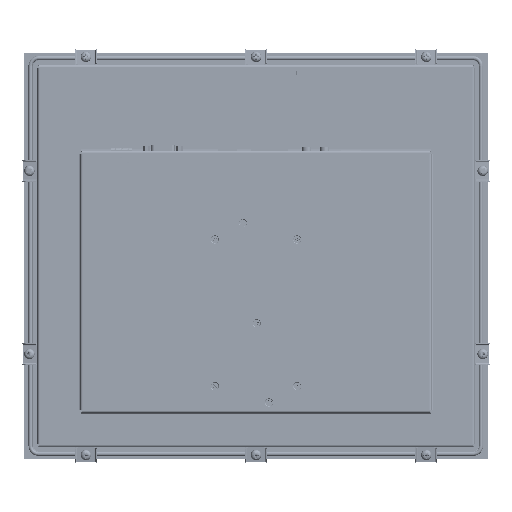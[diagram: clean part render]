
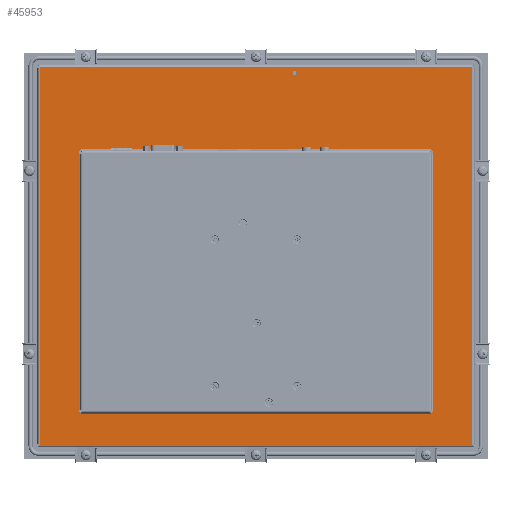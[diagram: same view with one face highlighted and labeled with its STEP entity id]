
A CAD part, front view. The second image highlights one B-rep face of the part: STEP entity #45953.
In plain terms, the highlighted planar face has unit normal (0, -1, 0).
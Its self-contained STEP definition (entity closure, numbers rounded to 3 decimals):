
#477 = DIRECTION ( 'NONE',  ( -0.707, 0., -0.707 ) ) ;
#1372 = EDGE_CURVE ( 'NONE', #93995, #81045, #34686, .T. ) ;
#3233 = EDGE_CURVE ( 'NONE', #61630, #12908, #7537, .T. ) ;
#7537 = LINE ( 'NONE', #129690, #44710 ) ;
#8149 = LINE ( 'NONE', #73299, #163790 ) ;
#8498 = ORIENTED_EDGE ( 'NONE', *, *, #120868, .T. ) ;
#9185 = DIRECTION ( 'NONE',  ( 0., 0., 1. ) ) ;
#10761 = EDGE_CURVE ( 'NONE', #183045, #22855, #186837, .T. ) ;
#11161 = ORIENTED_EDGE ( 'NONE', *, *, #44703, .T. ) ;
#12908 = VERTEX_POINT ( 'NONE', #58382 ) ;
#14512 = CARTESIAN_POINT ( 'NONE',  ( -127.125, -19.35, -122.173 ) ) ;
#16288 = CARTESIAN_POINT ( 'NONE',  ( -135.25, -19.35, -114.048 ) ) ;
#16373 = FACE_BOUND ( 'NONE', #59281, .T. ) ;
#17123 = EDGE_CURVE ( 'NONE', #81045, #61630, #123802, .T. ) ;
#19147 = ORIENTED_EDGE ( 'NONE', *, *, #125655, .T. ) ;
#19688 = ORIENTED_EDGE ( 'NONE', *, *, #130987, .T. ) ;
#20568 = LINE ( 'NONE', #112190, #101091 ) ;
#22855 = VERTEX_POINT ( 'NONE', #83299 ) ;
#22930 = VECTOR ( 'NONE', #96149, 1000. ) ;
#26645 = CARTESIAN_POINT ( 'NONE',  ( 165.2, -19.35, -139.248 ) ) ;
#29116 = CARTESIAN_POINT ( 'NONE',  ( -165.2, -19.35, 149.152 ) ) ;
#29225 = LINE ( 'NONE', #59809, #94743 ) ;
#30191 = CARTESIAN_POINT ( 'NONE',  ( 165.2, -19.35, 4.952 ) ) ;
#30628 = DIRECTION ( 'NONE',  ( 0., 1., 0. ) ) ;
#31212 = VERTEX_POINT ( 'NONE', #78984 ) ;
#33023 = LINE ( 'NONE', #49356, #171268 ) ;
#34686 = LINE ( 'NONE', #176208, #167789 ) ;
#37035 = VERTEX_POINT ( 'NONE', #176604 ) ;
#39861 = VERTEX_POINT ( 'NONE', #29116 ) ;
#44703 = EDGE_CURVE ( 'NONE', #185280, #93995, #111409, .T. ) ;
#44710 = VECTOR ( 'NONE', #191775, 1000. ) ;
#45953 = ADVANCED_FACE ( 'NONE', ( #108937, #16373 ), #46954, .F. ) ;
#46954 = PLANE ( 'NONE',  #52099 ) ;
#47391 = CARTESIAN_POINT ( 'NONE',  ( -135.25, -19.35, 86.452 ) ) ;
#47599 = DIRECTION ( 'NONE',  ( 0., 0., -1. ) ) ;
#49356 = CARTESIAN_POINT ( 'NONE',  ( -107.375, -19.35, 112.327 ) ) ;
#50183 = DIRECTION ( 'NONE',  ( 0., 0., -1. ) ) ;
#52099 = AXIS2_PLACEMENT_3D ( 'NONE', #61229, #30628, #173060 ) ;
#52479 = LINE ( 'NONE', #97221, #153546 ) ;
#54483 = EDGE_CURVE ( 'NONE', #31212, #185280, #52479, .T. ) ;
#56151 = VECTOR ( 'NONE', #92905, 1000. ) ;
#57769 = CARTESIAN_POINT ( 'NONE',  ( 133.25, -19.35, -116.048 ) ) ;
#58382 = CARTESIAN_POINT ( 'NONE',  ( 165.2, -19.35, 149.152 ) ) ;
#59281 = EDGE_LOOP ( 'NONE', ( #77003, #177720, #166932, #143662, #85090, #113199, #19147, #149679 ) ) ;
#59809 = CARTESIAN_POINT ( 'NONE',  ( 0., -19.35, 149.152 ) ) ;
#61044 = VERTEX_POINT ( 'NONE', #72771 ) ;
#61229 = CARTESIAN_POINT ( 'NONE',  ( 0., -19.35, 4.952 ) ) ;
#61340 = DIRECTION ( 'NONE',  ( -0.707, 0., 0.707 ) ) ;
#61630 = VERTEX_POINT ( 'NONE', #75281 ) ;
#61788 = DIRECTION ( 'NONE',  ( 0., 0., 1. ) ) ;
#65611 = DIRECTION ( 'NONE',  ( 0.707, 0., 0.707 ) ) ;
#68330 = CARTESIAN_POINT ( 'NONE',  ( 135.25, -19.35, -114.048 ) ) ;
#72771 = CARTESIAN_POINT ( 'NONE',  ( -133.25, -19.35, -116.048 ) ) ;
#73253 = EDGE_CURVE ( 'NONE', #37035, #186939, #188026, .T. ) ;
#73299 = CARTESIAN_POINT ( 'NONE',  ( -165.2, -19.35, 4.952 ) ) ;
#74218 = EDGE_CURVE ( 'NONE', #22855, #37035, #190047, .T. ) ;
#74752 = EDGE_LOOP ( 'NONE', ( #11161, #198209, #201094, #156612, #8498, #19688, #199685, #149738 ) ) ;
#75281 = CARTESIAN_POINT ( 'NONE',  ( 165.2, -19.35, 148.181 ) ) ;
#75433 = CARTESIAN_POINT ( 'NONE',  ( -165.2, -19.35, -139.248 ) ) ;
#77003 = ORIENTED_EDGE ( 'NONE', *, *, #10761, .T. ) ;
#78984 = CARTESIAN_POINT ( 'NONE',  ( -165.2, -19.35, -138.277 ) ) ;
#81045 = VERTEX_POINT ( 'NONE', #148974 ) ;
#83299 = CARTESIAN_POINT ( 'NONE',  ( 133.25, -19.35, 86.452 ) ) ;
#84433 = VECTOR ( 'NONE', #61788, 1000. ) ;
#85090 = ORIENTED_EDGE ( 'NONE', *, *, #142332, .T. ) ;
#92905 = DIRECTION ( 'NONE',  ( -1., 0., 0. ) ) ;
#93995 = VERTEX_POINT ( 'NONE', #26645 ) ;
#94282 = EDGE_CURVE ( 'NONE', #169028, #31212, #8149, .T. ) ;
#94743 = VECTOR ( 'NONE', #182956, 1000. ) ;
#94862 = CARTESIAN_POINT ( 'NONE',  ( -135.25, -19.35, 84.452 ) ) ;
#96149 = DIRECTION ( 'NONE',  ( 1., 0., 0. ) ) ;
#97221 = CARTESIAN_POINT ( 'NONE',  ( -165.2, -19.35, 4.952 ) ) ;
#97720 = CARTESIAN_POINT ( 'NONE',  ( -133.25, -19.35, 86.452 ) ) ;
#98420 = VECTOR ( 'NONE', #188060, 1000. ) ;
#101091 = VECTOR ( 'NONE', #50183, 1000. ) ;
#102740 = EDGE_CURVE ( 'NONE', #61044, #197594, #125375, .T. ) ;
#108360 = LINE ( 'NONE', #139960, #163472 ) ;
#108937 = FACE_OUTER_BOUND ( 'NONE', #74752, .T. ) ;
#111051 = DIRECTION ( 'NONE',  ( 0., 0., 1. ) ) ;
#111409 = LINE ( 'NONE', #139968, #22930 ) ;
#112190 = CARTESIAN_POINT ( 'NONE',  ( -165.2, -19.35, 4.952 ) ) ;
#113199 = ORIENTED_EDGE ( 'NONE', *, *, #102740, .T. ) ;
#117785 = VECTOR ( 'NONE', #153319, 1000. ) ;
#120868 = EDGE_CURVE ( 'NONE', #12908, #39861, #29225, .T. ) ;
#122421 = LINE ( 'NONE', #198875, #56151 ) ;
#123802 = LINE ( 'NONE', #30191, #84433 ) ;
#125375 = LINE ( 'NONE', #14512, #193681 ) ;
#125426 = CARTESIAN_POINT ( 'NONE',  ( -165.2, -19.35, 148.181 ) ) ;
#125655 = EDGE_CURVE ( 'NONE', #197594, #154751, #170599, .T. ) ;
#129690 = CARTESIAN_POINT ( 'NONE',  ( 165.2, -19.35, 4.952 ) ) ;
#130987 = EDGE_CURVE ( 'NONE', #39861, #169028, #20568, .T. ) ;
#134341 = CARTESIAN_POINT ( 'NONE',  ( -135.25, -19.35, -116.048 ) ) ;
#139960 = CARTESIAN_POINT ( 'NONE',  ( 127.125, -19.35, -122.173 ) ) ;
#139968 = CARTESIAN_POINT ( 'NONE',  ( 0., -19.35, -139.248 ) ) ;
#141800 = VECTOR ( 'NONE', #9185, 1000. ) ;
#141988 = EDGE_CURVE ( 'NONE', #186939, #196036, #108360, .T. ) ;
#142332 = EDGE_CURVE ( 'NONE', #196036, #61044, #122421, .T. ) ;
#143662 = ORIENTED_EDGE ( 'NONE', *, *, #141988, .T. ) ;
#148974 = CARTESIAN_POINT ( 'NONE',  ( 165.2, -19.35, -138.277 ) ) ;
#149679 = ORIENTED_EDGE ( 'NONE', *, *, #188537, .T. ) ;
#149738 = ORIENTED_EDGE ( 'NONE', *, *, #54483, .T. ) ;
#153282 = VECTOR ( 'NONE', #47599, 1000. ) ;
#153319 = DIRECTION ( 'NONE',  ( 1., 0., 0. ) ) ;
#153546 = VECTOR ( 'NONE', #189893, 1000. ) ;
#154751 = VERTEX_POINT ( 'NONE', #94862 ) ;
#156612 = ORIENTED_EDGE ( 'NONE', *, *, #3233, .T. ) ;
#159543 = CARTESIAN_POINT ( 'NONE',  ( 107.375, -19.35, 112.327 ) ) ;
#163472 = VECTOR ( 'NONE', #477, 1000. ) ;
#163790 = VECTOR ( 'NONE', #197494, 1000. ) ;
#166932 = ORIENTED_EDGE ( 'NONE', *, *, #73253, .T. ) ;
#167789 = VECTOR ( 'NONE', #111051, 1000. ) ;
#169028 = VERTEX_POINT ( 'NONE', #125426 ) ;
#170599 = LINE ( 'NONE', #134341, #141800 ) ;
#171268 = VECTOR ( 'NONE', #65611, 1000. ) ;
#173060 = DIRECTION ( 'NONE',  ( -1., 0., 0. ) ) ;
#176208 = CARTESIAN_POINT ( 'NONE',  ( 165.2, -19.35, 4.952 ) ) ;
#176604 = CARTESIAN_POINT ( 'NONE',  ( 135.25, -19.35, 84.452 ) ) ;
#177720 = ORIENTED_EDGE ( 'NONE', *, *, #74218, .T. ) ;
#182956 = DIRECTION ( 'NONE',  ( -1., 0., 0. ) ) ;
#183045 = VERTEX_POINT ( 'NONE', #97720 ) ;
#185280 = VERTEX_POINT ( 'NONE', #75433 ) ;
#186837 = LINE ( 'NONE', #47391, #117785 ) ;
#186939 = VERTEX_POINT ( 'NONE', #68330 ) ;
#187030 = CARTESIAN_POINT ( 'NONE',  ( 135.25, -19.35, -116.048 ) ) ;
#188026 = LINE ( 'NONE', #187030, #153282 ) ;
#188060 = DIRECTION ( 'NONE',  ( 0.707, 0., -0.707 ) ) ;
#188537 = EDGE_CURVE ( 'NONE', #154751, #183045, #33023, .T. ) ;
#189893 = DIRECTION ( 'NONE',  ( 0., 0., -1. ) ) ;
#190047 = LINE ( 'NONE', #159543, #98420 ) ;
#191775 = DIRECTION ( 'NONE',  ( 0., 0., 1. ) ) ;
#193681 = VECTOR ( 'NONE', #61340, 1000. ) ;
#196036 = VERTEX_POINT ( 'NONE', #57769 ) ;
#197494 = DIRECTION ( 'NONE',  ( 0., 0., -1. ) ) ;
#197594 = VERTEX_POINT ( 'NONE', #16288 ) ;
#198209 = ORIENTED_EDGE ( 'NONE', *, *, #1372, .T. ) ;
#198875 = CARTESIAN_POINT ( 'NONE',  ( -135.25, -19.35, -116.048 ) ) ;
#199685 = ORIENTED_EDGE ( 'NONE', *, *, #94282, .T. ) ;
#201094 = ORIENTED_EDGE ( 'NONE', *, *, #17123, .T. ) ;
